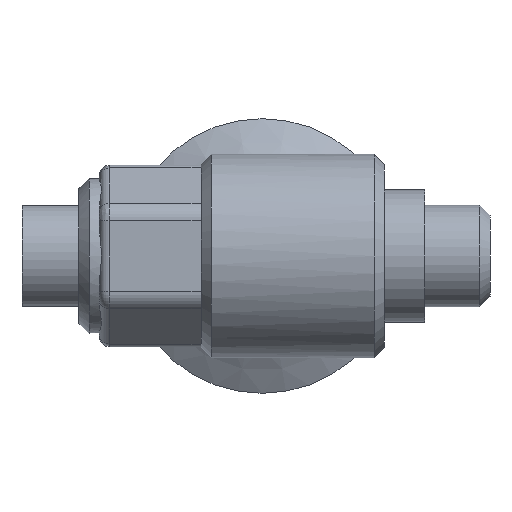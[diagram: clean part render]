
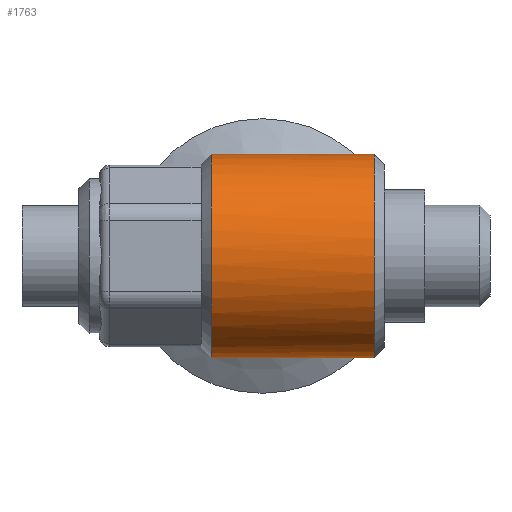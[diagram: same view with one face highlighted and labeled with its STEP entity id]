
A CAD part, left-side view. The second image highlights one B-rep face of the part: STEP entity #1763.
In plain terms, the highlighted cylindrical face has radius 5 mm (diameter 10 mm), a full revolution.
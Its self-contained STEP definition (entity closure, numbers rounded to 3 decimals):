
#1612=CARTESIAN_POINT('',(3.317,2.5,3.742));
#1613=VERTEX_POINT('',#1612);
#1632=CARTESIAN_POINT('',(3.317,2.5,-3.742));
#1633=VERTEX_POINT('',#1632);
#1644=CARTESIAN_POINT('',(0.0,2.5,0.0));
#1645=DIRECTION('',(0.0,-1.0,0.0));
#1646=DIRECTION('',(1.0,0.0,0.0));
#1647=AXIS2_PLACEMENT_3D('',#1644,#1645,#1646);
#1648=CIRCLE('',#1647,5.0);
#1649=EDGE_CURVE('',#1613,#1633,#1648,.T.);
#1706=CARTESIAN_POINT('',(0.0,-1.5,0.0));
#1707=DIRECTION('',(0.0,-1.0,0.0));
#1708=DIRECTION('',(1.0,0.0,0.0));
#1709=AXIS2_PLACEMENT_3D('',#1706,#1707,#1708);
#1710=CYLINDRICAL_SURFACE('',#1709,5.0);
#1711=CARTESIAN_POINT('',(3.317,2.5,3.742));
#1712=CARTESIAN_POINT('',(3.142,2.268,3.897));
#1713=CARTESIAN_POINT('',(2.965,2.021,4.031));
#1714=CARTESIAN_POINT('',(2.635,1.495,4.254));
#1715=CARTESIAN_POINT('',(2.481,1.216,4.343));
#1716=CARTESIAN_POINT('',(2.253,0.633,4.465));
#1717=CARTESIAN_POINT('',(2.179,0.327,4.5));
#1718=CARTESIAN_POINT('',(2.179,0.0,4.5));
#1719=CARTESIAN_POINT('',(2.179,-0.327,4.5));
#1720=CARTESIAN_POINT('',(2.253,-0.633,4.465));
#1721=CARTESIAN_POINT('',(2.481,-1.216,4.343));
#1722=CARTESIAN_POINT('',(2.635,-1.495,4.254));
#1723=CARTESIAN_POINT('',(3.138,-2.296,3.914));
#1724=CARTESIAN_POINT('',(3.527,-2.783,3.581));
#1725=CARTESIAN_POINT('',(4.163,-3.553,2.811));
#1726=CARTESIAN_POINT('',(4.463,-3.896,2.331));
#1727=CARTESIAN_POINT('',(4.882,-4.37,1.229));
#1728=CARTESIAN_POINT('',(5.0,-4.5,0.607));
#1729=CARTESIAN_POINT('',(5.0,-4.5,-0.607));
#1730=CARTESIAN_POINT('',(4.882,-4.37,-1.229));
#1731=CARTESIAN_POINT('',(4.463,-3.896,-2.331));
#1732=CARTESIAN_POINT('',(4.163,-3.553,-2.811));
#1733=CARTESIAN_POINT('',(3.527,-2.783,-3.581));
#1734=CARTESIAN_POINT('',(3.138,-2.296,-3.914));
#1735=CARTESIAN_POINT('',(2.635,-1.495,-4.254));
#1736=CARTESIAN_POINT('',(2.481,-1.216,-4.343));
#1737=CARTESIAN_POINT('',(2.253,-0.633,-4.465));
#1738=CARTESIAN_POINT('',(2.179,-0.327,-4.5));
#1739=CARTESIAN_POINT('',(2.179,0.327,-4.5));
#1740=CARTESIAN_POINT('',(2.253,0.633,-4.465));
#1741=CARTESIAN_POINT('',(2.481,1.216,-4.343));
#1742=CARTESIAN_POINT('',(2.635,1.495,-4.254));
#1743=CARTESIAN_POINT('',(2.965,2.021,-4.031));
#1744=CARTESIAN_POINT('',(3.142,2.268,-3.897));
#1745=CARTESIAN_POINT('',(3.317,2.5,-3.742));
#1746=B_SPLINE_CURVE_WITH_KNOTS('',3,(#1711,#1712,#1713,#1714,#1715,#1716,#1717,#1718,#1719,#1720,#1721,#1722,#1723,#1724,#1725,#1726,#1727,#1728,#1729,#1730,#1731,#1732,#1733,#1734,#1735,#1736,#1737,#1738,#1739,#1740,#1741,#1742,#1743,#1744,#1745),.UNSPECIFIED.,.F.,.U.,(4,2,2,3,2,2,2,2,2,2,2,2,2,2,2,2,4),(-0.291,-0.196,-0.098,0.0,0.098,0.196,0.392,0.574,0.756,0.938,1.121,1.317,1.415,1.513,1.611,1.709,1.804),.UNSPECIFIED.);
#1747=EDGE_CURVE('',#1613,#1633,#1746,.T.);
#1748=ORIENTED_EDGE('',*,*,#1747,.F.);
#1749=ORIENTED_EDGE('',*,*,#1649,.T.);
#1750=EDGE_LOOP('',(#1748,#1749));
#1751=FACE_OUTER_BOUND('',#1750,.T.);
#1752=CARTESIAN_POINT('',(5.0,-5.5,0.0));
#1753=VERTEX_POINT('',#1752);
#1754=CARTESIAN_POINT('',(0.0,-5.5,0.0));
#1755=DIRECTION('',(0.0,-1.0,0.0));
#1756=DIRECTION('',(1.0,0.0,0.0));
#1757=AXIS2_PLACEMENT_3D('',#1754,#1755,#1756);
#1758=CIRCLE('',#1757,5.0);
#1759=EDGE_CURVE('',#1753,#1753,#1758,.T.);
#1760=ORIENTED_EDGE('',*,*,#1759,.F.);
#1761=EDGE_LOOP('',(#1760));
#1762=FACE_BOUND('',#1761,.T.);
#1763=ADVANCED_FACE('',(#1751,#1762),#1710,.T.);
